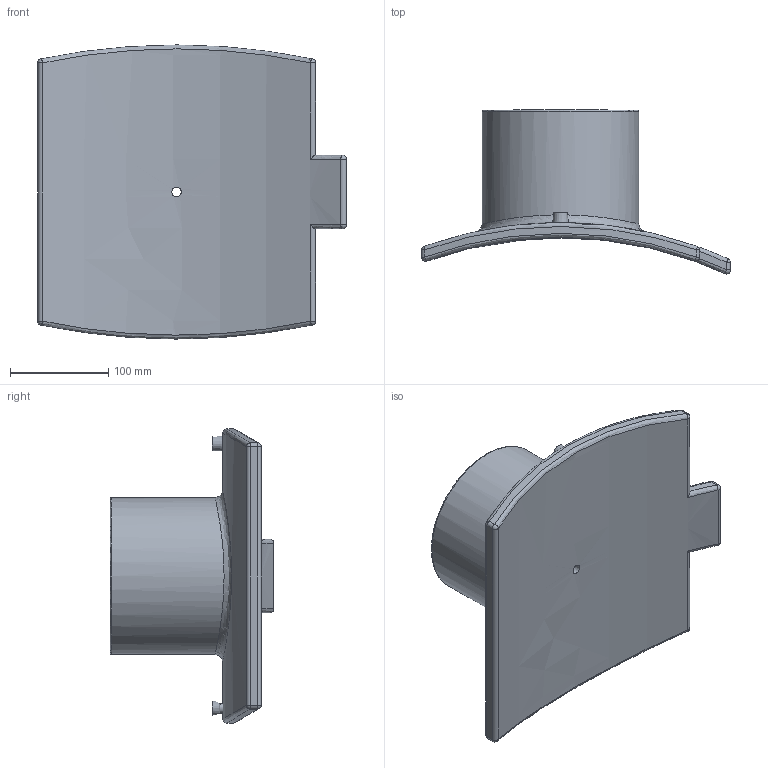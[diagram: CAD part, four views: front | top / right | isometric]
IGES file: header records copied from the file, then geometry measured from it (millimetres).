
Global section: file name: 495804710160T.ipt; native system: Autodesk Inventor 2015; preprocessor: unknown; author: KIM; date: 20171106.094346; units: millimetre
Bounding box: 315 x 167.15 x 300 mm (x, y, z)
Volume: 2159208.5 mm3; surface area: 300606.9 mm2
Topology: 2 solids, 2 shells, 66 faces, 132 edges, 78 vertices
Faces by surface type: cylinder 22, plane 14, sphere 12, revolution 11, bspline 5, cone 2
Full cylindrical faces by diameter (mm): 4 x2, 16 x1, 160 x1
